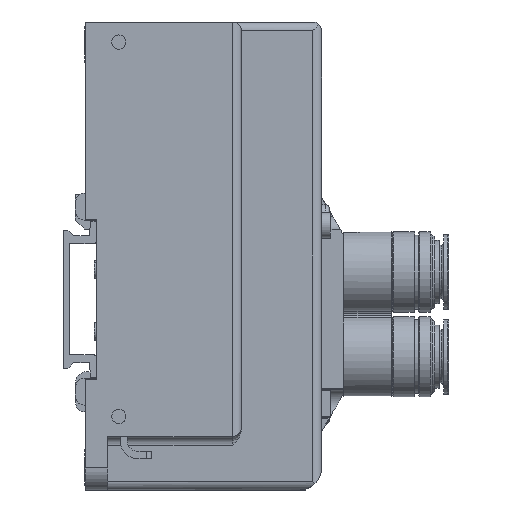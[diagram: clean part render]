
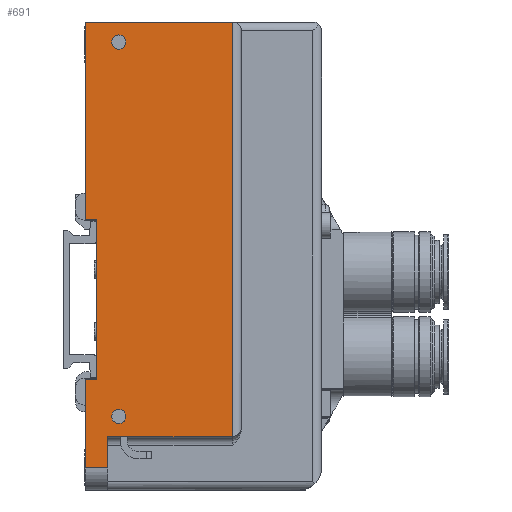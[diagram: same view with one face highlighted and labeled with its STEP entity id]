
A CAD part, left-side view. The second image highlights one B-rep face of the part: STEP entity #691.
In plain terms, the highlighted planar face has unit normal (-1, 0, 0).
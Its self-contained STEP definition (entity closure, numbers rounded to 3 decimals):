
#691=ADVANCED_FACE('',(#1306,#1307,#1308),#1305,.F.);
#1305=PLANE('',#6535);
#1306=FACE_OUTER_BOUND('',#6536,.T.);
#1307=FACE_BOUND('',#6537,.T.);
#1308=FACE_BOUND('',#6538,.T.);
#6532=CARTESIAN_POINT('',(0.,-41.3,72.2));
#6533=DIRECTION('',(1.,0.,0.));
#6534=DIRECTION('',(0.,0.,-1.));
#6535=AXIS2_PLACEMENT_3D('',#6532,#6533,#6534);
#6536=EDGE_LOOP('',(#9794,#9795,#9796,#9797,#9798,#9799,#9800,#9801,#9802,#9803));
#6537=EDGE_LOOP('',(#9804,#9805));
#6538=EDGE_LOOP('',(#9806,#9807));
#9794=ORIENTED_EDGE('',*,*,#12520,.F.);
#9795=ORIENTED_EDGE('',*,*,#12485,.T.);
#9796=ORIENTED_EDGE('',*,*,#12519,.F.);
#9797=ORIENTED_EDGE('',*,*,#12521,.F.);
#9798=ORIENTED_EDGE('',*,*,#12522,.T.);
#9799=ORIENTED_EDGE('',*,*,#12523,.F.);
#9800=ORIENTED_EDGE('',*,*,#12524,.T.);
#9801=ORIENTED_EDGE('',*,*,#12525,.T.);
#9802=ORIENTED_EDGE('',*,*,#12526,.F.);
#9803=ORIENTED_EDGE('',*,*,#12527,.F.);
#9804=ORIENTED_EDGE('',*,*,#12528,.F.);
#9805=ORIENTED_EDGE('',*,*,#12529,.F.);
#9806=ORIENTED_EDGE('',*,*,#12530,.F.);
#9807=ORIENTED_EDGE('',*,*,#12531,.F.);
#12485=EDGE_CURVE('',#14368,#14361,#14369,.T.);
#12519=EDGE_CURVE('',#14595,#14361,#14602,.T.);
#12520=EDGE_CURVE('',#14368,#14608,#14609,.T.);
#12521=EDGE_CURVE('',#14615,#14595,#14616,.T.);
#12522=EDGE_CURVE('',#14615,#13795,#14622,.T.);
#12523=EDGE_CURVE('',#14628,#13795,#14629,.T.);
#12524=EDGE_CURVE('',#14628,#14635,#14636,.T.);
#12525=EDGE_CURVE('',#14635,#14642,#14643,.T.);
#12526=EDGE_CURVE('',#14649,#14642,#14650,.T.);
#12527=EDGE_CURVE('',#14608,#14649,#14656,.T.);
#12528=EDGE_CURVE('',#14662,#14663,#14664,.T.);
#12529=EDGE_CURVE('',#14663,#14662,#14670,.T.);
#12530=EDGE_CURVE('',#14676,#14677,#14678,.T.);
#12531=EDGE_CURVE('',#14677,#14676,#14684,.T.);
#13795=VERTEX_POINT('',#22892);
#14361=VERTEX_POINT('',#23221);
#14368=VERTEX_POINT('',#23226);
#14369=LINE('',#23227,#23228);
#14595=VERTEX_POINT('',#23359);
#14602=LINE('',#23364,#23365);
#14608=VERTEX_POINT('',#23367);
#14609=LINE('',#23368,#23369);
#14615=VERTEX_POINT('',#23371);
#14616=LINE('',#23372,#23373);
#14622=LINE('',#23375,#23376);
#14628=VERTEX_POINT('',#23378);
#14629=LINE('',#23379,#23380);
#14635=VERTEX_POINT('',#23382);
#14636=LINE('',#23383,#23384);
#14642=VERTEX_POINT('',#23386);
#14643=LINE('',#23387,#23388);
#14649=VERTEX_POINT('',#23390);
#14650=LINE('',#23391,#23392);
#14656=LINE('',#23394,#23395);
#14662=VERTEX_POINT('',#23397);
#14663=VERTEX_POINT('',#23398);
#14664=CIRCLE('',#23402,1.6);
#14670=CIRCLE('',#23406,1.6);
#14676=VERTEX_POINT('',#23407);
#14677=VERTEX_POINT('',#23408);
#14678=CIRCLE('',#23412,1.6);
#14684=CIRCLE('',#23416,1.6);
#22892=CARTESIAN_POINT('',(0.,-38.,-30.8));
#23221=CARTESIAN_POINT('',(0.,-5.,-37.8));
#23226=CARTESIAN_POINT('',(0.,-5.,-18.));
#23227=CARTESIAN_POINT('',(0.,-5.,-18.));
#23228=VECTOR('',#23229,19.8);
#23229=DIRECTION('',(0.,0.,-1.));
#23359=CARTESIAN_POINT('',(0.,-10.,-37.8));
#23364=CARTESIAN_POINT('',(0.,-10.,-37.8));
#23365=VECTOR('',#23366,5.);
#23366=DIRECTION('',(0.,1.,0.));
#23367=CARTESIAN_POINT('',(0.,-7.5,-18.));
#23368=CARTESIAN_POINT('',(0.,-5.,-18.));
#23369=VECTOR('',#23370,2.5);
#23370=DIRECTION('',(0.,-1.,0.));
#23371=CARTESIAN_POINT('',(0.,-10.,-30.8));
#23372=CARTESIAN_POINT('',(0.,-10.,-30.8));
#23373=VECTOR('',#23374,7.);
#23374=DIRECTION('',(0.,0.,-1.));
#23375=CARTESIAN_POINT('',(0.,-10.,-30.8));
#23376=VECTOR('',#23377,28.);
#23377=DIRECTION('',(0.,-1.,0.));
#23378=CARTESIAN_POINT('',(0.,-38.,62.2));
#23379=CARTESIAN_POINT('',(0.,-38.,62.2));
#23380=VECTOR('',#23381,93.);
#23381=DIRECTION('',(0.,0.,-1.));
#23382=CARTESIAN_POINT('',(0.,-5.,62.2));
#23383=CARTESIAN_POINT('',(0.,-38.,62.2));
#23384=VECTOR('',#23385,33.);
#23385=DIRECTION('',(0.,1.,0.));
#23386=CARTESIAN_POINT('',(0.,-5.,18.));
#23387=CARTESIAN_POINT('',(0.,-5.,62.2));
#23388=VECTOR('',#23389,44.2);
#23389=DIRECTION('',(0.,0.,-1.));
#23390=CARTESIAN_POINT('',(0.,-7.5,18.));
#23391=CARTESIAN_POINT('',(0.,-7.5,18.));
#23392=VECTOR('',#23393,2.5);
#23393=DIRECTION('',(0.,1.,0.));
#23394=CARTESIAN_POINT('',(0.,-7.5,-18.));
#23395=VECTOR('',#23396,36.);
#23396=DIRECTION('',(0.,0.,1.));
#23397=CARTESIAN_POINT('',(0.,-12.5,59.3));
#23398=CARTESIAN_POINT('',(0.,-12.5,56.1));
#23399=CARTESIAN_POINT('',(0.,-12.5,57.7));
#23400=DIRECTION('',(-1.,0.,0.));
#23401=DIRECTION('',(0.,0.,-1.));
#23402=AXIS2_PLACEMENT_3D('',#23399,#23400,#23401);
#23403=CARTESIAN_POINT('',(0.,-12.5,57.7));
#23404=DIRECTION('',(-1.,0.,0.));
#23405=DIRECTION('',(0.,0.,-1.));
#23406=AXIS2_PLACEMENT_3D('',#23403,#23404,#23405);
#23407=CARTESIAN_POINT('',(0.,-12.5,-24.7));
#23408=CARTESIAN_POINT('',(0.,-12.5,-27.9));
#23409=CARTESIAN_POINT('',(0.,-12.5,-26.3));
#23410=DIRECTION('',(-1.,0.,0.));
#23411=DIRECTION('',(0.,0.,-1.));
#23412=AXIS2_PLACEMENT_3D('',#23409,#23410,#23411);
#23413=CARTESIAN_POINT('',(0.,-12.5,-26.3));
#23414=DIRECTION('',(-1.,0.,0.));
#23415=DIRECTION('',(0.,0.,-1.));
#23416=AXIS2_PLACEMENT_3D('',#23413,#23414,#23415);
